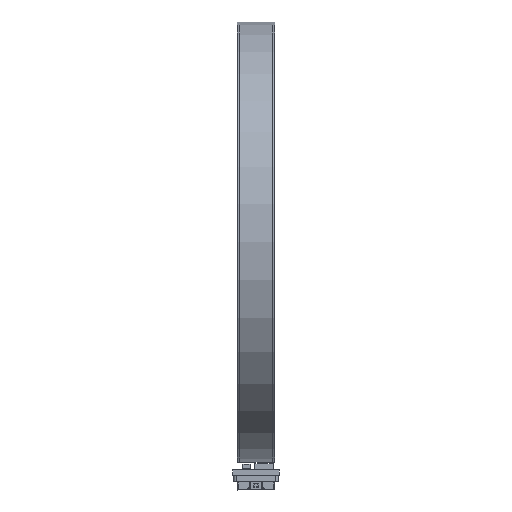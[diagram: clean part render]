
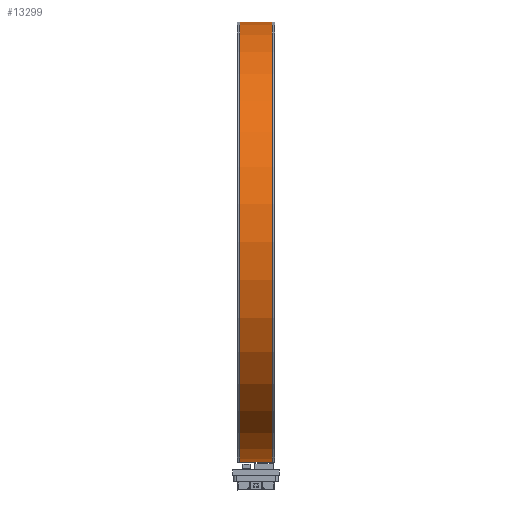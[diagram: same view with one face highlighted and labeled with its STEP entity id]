
A CAD part, left-side view. The second image highlights one B-rep face of the part: STEP entity #13299.
In plain terms, the highlighted cylindrical face has radius 81.2 mm (diameter 162.4 mm), a partial arc.
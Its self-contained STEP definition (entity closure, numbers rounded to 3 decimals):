
#1929 = CARTESIAN_POINT ( 'NONE',  ( 0., 13., 0. ) ) ;
#3145 = EDGE_CURVE ( 'NONE', #77093, #83384, #50281, .T. ) ;
#3972 = DIRECTION ( 'NONE',  ( 0., 1., 0. ) ) ;
#4288 = CARTESIAN_POINT ( 'NONE',  ( 0., -15., 0. ) ) ;
#4977 = CARTESIAN_POINT ( 'NONE',  ( 0., 13., -81.2 ) ) ;
#5851 = VERTEX_POINT ( 'NONE', #66455 ) ;
#8413 = CYLINDRICAL_SURFACE ( 'NONE', #42771, 81.2 ) ;
#9295 = FACE_OUTER_BOUND ( 'NONE', #63710, .T. ) ;
#13299 = ADVANCED_FACE ( 'NONE', ( #9295 ), #8413, .T. ) ;
#16931 = DIRECTION ( 'NONE',  ( 0., 1., 0. ) ) ;
#19527 = VERTEX_POINT ( 'NONE', #72888 ) ;
#21764 = DIRECTION ( 'NONE',  ( 0., -1., 0. ) ) ;
#24608 = VECTOR ( 'NONE', #3972, 1000. ) ;
#26644 = ORIENTED_EDGE ( 'NONE', *, *, #82134, .T. ) ;
#27684 = EDGE_CURVE ( 'NONE', #77093, #19527, #30652, .T. ) ;
#29636 = CIRCLE ( 'NONE', #88496, 81.2 ) ;
#30445 = EDGE_CURVE ( 'NONE', #19527, #5851, #65492, .T. ) ;
#30494 = CARTESIAN_POINT ( 'NONE',  ( 0., -15., -81.2 ) ) ;
#30652 = CIRCLE ( 'NONE', #86646, 81.2 ) ;
#34564 = VECTOR ( 'NONE', #38074, 1000. ) ;
#36291 = CARTESIAN_POINT ( 'NONE',  ( 0., 1., 0. ) ) ;
#38074 = DIRECTION ( 'NONE',  ( 0., 1., 0. ) ) ;
#39220 = ORIENTED_EDGE ( 'NONE', *, *, #27684, .T. ) ;
#42326 = DIRECTION ( 'NONE',  ( 0., 0., -1. ) ) ;
#42771 = AXIS2_PLACEMENT_3D ( 'NONE', #4288, #16931, #86563 ) ;
#50281 = LINE ( 'NONE', #30494, #34564 ) ;
#53371 = CARTESIAN_POINT ( 'NONE',  ( 0., -15., 81.2 ) ) ;
#63710 = EDGE_LOOP ( 'NONE', ( #76143, #39220, #68928, #26644 ) ) ;
#64111 = DIRECTION ( 'NONE',  ( 0., 1., 0. ) ) ;
#65054 = CARTESIAN_POINT ( 'NONE',  ( 0., 1., -81.2 ) ) ;
#65492 = LINE ( 'NONE', #53371, #24608 ) ;
#66455 = CARTESIAN_POINT ( 'NONE',  ( 0., 13., 81.2 ) ) ;
#68928 = ORIENTED_EDGE ( 'NONE', *, *, #30445, .T. ) ;
#69595 = DIRECTION ( 'NONE',  ( 0., 0., 1. ) ) ;
#72888 = CARTESIAN_POINT ( 'NONE',  ( 0., 1., 81.2 ) ) ;
#76143 = ORIENTED_EDGE ( 'NONE', *, *, #3145, .F. ) ;
#77093 = VERTEX_POINT ( 'NONE', #65054 ) ;
#82134 = EDGE_CURVE ( 'NONE', #5851, #83384, #29636, .T. ) ;
#83384 = VERTEX_POINT ( 'NONE', #4977 ) ;
#86563 = DIRECTION ( 'NONE',  ( 0., 0., 1. ) ) ;
#86646 = AXIS2_PLACEMENT_3D ( 'NONE', #36291, #64111, #69595 ) ;
#88496 = AXIS2_PLACEMENT_3D ( 'NONE', #1929, #21764, #42326 ) ;
